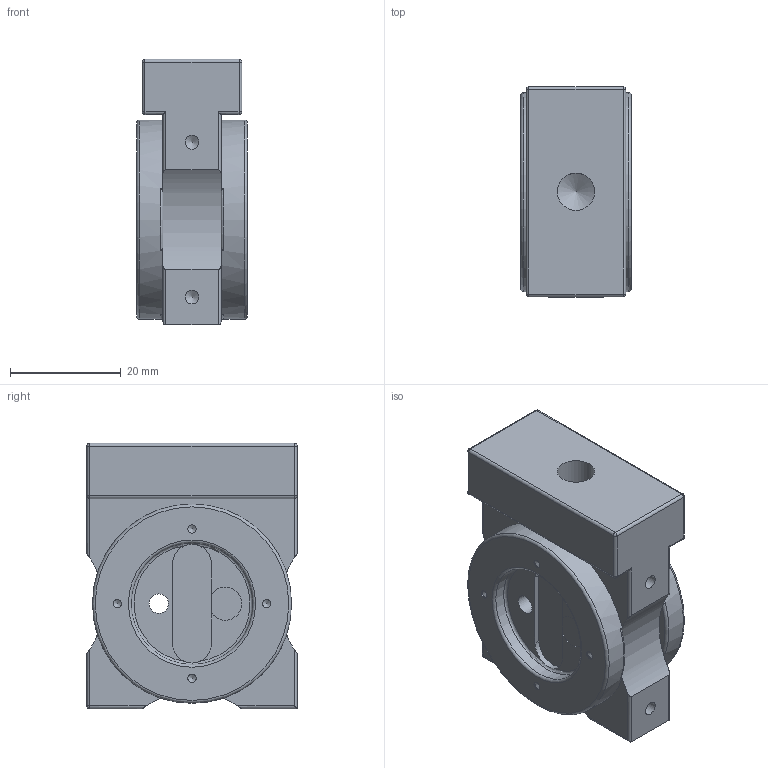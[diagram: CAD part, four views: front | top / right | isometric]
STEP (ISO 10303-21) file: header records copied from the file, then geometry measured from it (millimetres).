
FILE_DESCRIPTION(/* description */ (''),/* implementation_level */ '2;1');
FILE_NAME(/* name */ 'WOLLASTON PRISM.stp',/* time_stamp */ '2011-07-20T14:19:12+01:00',/* author */ (''),/* organization */ (''),/* preprocessor_version */ 'ST-DEVELOPER v11',/* originating_system */ 'SIEMENS PLM Software NX 7.5',/* authorisation */ '');
FILE_SCHEMA (('CONFIG_CONTROL_DESIGN'));
Length unit declared in the file: millimetre
Products named in the file (1): ad131DB9mm67
Bounding box: 20 x 38 x 48 mm (x, y, z)
Volume: 27333.3 mm3; surface area: 8162.1 mm2
Topology: 1 solids, 1 shells, 126 faces, 337 edges, 205 vertices
Faces by surface type: cylinder 54, plane 37, cone 13, torus 12, sphere 10
Full cylindrical faces by diameter (mm): 1.5 x8, 2.5 x4, 3.5 x1, 6.75 x1, 22 x2, 36 x2
Entity records: 3861 total; most frequent: CARTESIAN_POINT 977, DIRECTION 613, ORIENTED_EDGE 514, EDGE_CURVE 257, AXIS2_PLACEMENT_3D 257, VERTEX_POINT 185, EDGE_LOOP 167, ADVANCED_FACE 126
